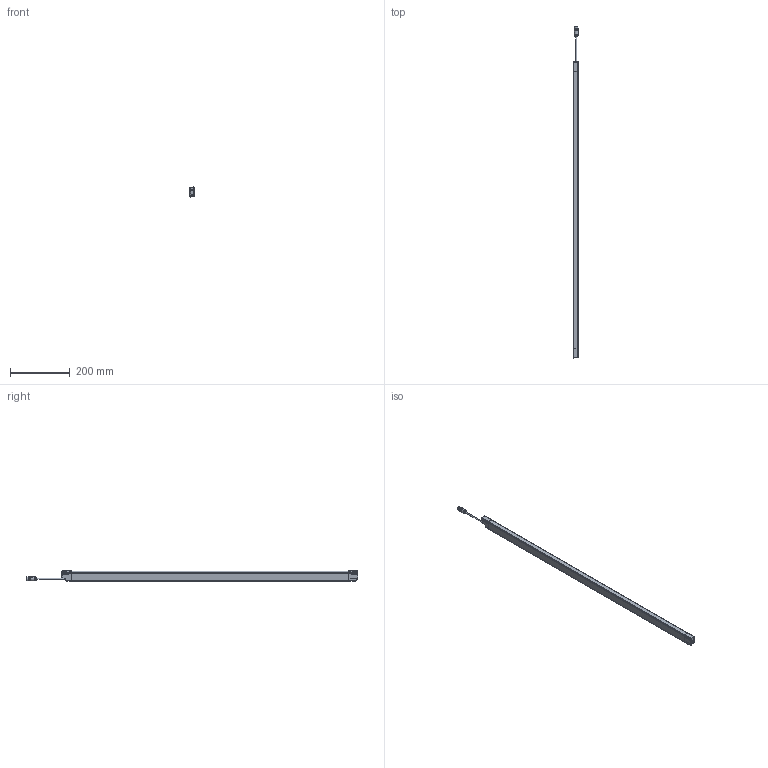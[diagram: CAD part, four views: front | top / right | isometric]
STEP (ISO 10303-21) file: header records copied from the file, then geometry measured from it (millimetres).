
FILE_DESCRIPTION(/* description */ (''),/* implementation_level */ '2;1');
FILE_NAME(/* name */ 'DSD-0648.stp',/* time_stamp */ '2015-02-23T17:47:43+01:00',/* author */ (''),/* organization */ (''),/* preprocessor_version */ 'ST-DEVELOPER v11',/* originating_system */ 'SIEMENS PLM Software NX 7.5',/* authorisation */ '');
FILE_SCHEMA (('AUTOMOTIVE_DESIGN { 1 0 10303 214 1 1 1 1 }'));
Length unit declared in the file: millimetre
Products named in the file (1): AP008170_00
Bounding box: 17.36 x 1110.24 x 33.46 mm (x, y, z)
Surface area: 120340.1 mm2 (no closed solid volume)
Topology: 0 solids, 44 shells, 1056 faces, 3630 edges, 2491 vertices
Faces by surface type: cylinder 387, plane 315, bspline 143, torus 112, sphere 64, cone 35
Full cylindrical faces by diameter (mm): 1 x5, 1.2 x2, 2.6 x6, 4 x1, 8.3 x1, 9.4 x1, 10.4 x1, 12 x1, 13 x1, 13.5 x1, 14.5 x2
Entity records: 44776 total; most frequent: CARTESIAN_POINT 14206, DIRECTION 6550, ORIENTED_EDGE 5652, EDGE_CURVE 3517, AXIS2_PLACEMENT_3D 2468, VERTEX_POINT 2463, LINE 1614, VECTOR 1614
